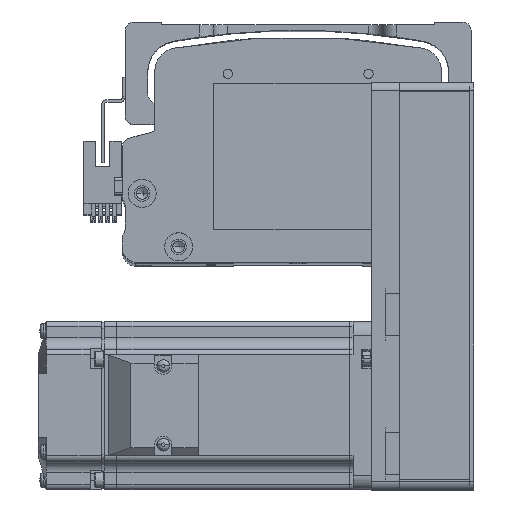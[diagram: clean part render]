
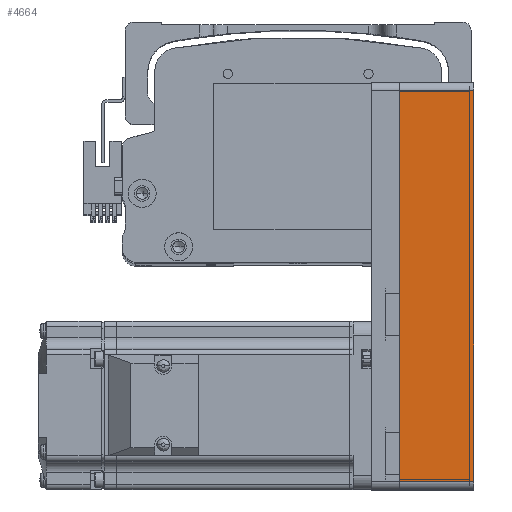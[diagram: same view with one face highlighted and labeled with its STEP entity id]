
A CAD part, top view. The second image highlights one B-rep face of the part: STEP entity #4664.
In plain terms, the highlighted planar face has unit normal (0, 0, 1) as drawn and (0, -1, 0) by its records, which use the part's own axes.
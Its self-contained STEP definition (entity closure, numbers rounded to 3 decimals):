
#3552 = DIRECTION ( 'NONE',  ( 1., 0., 0. ) ) ;
#4664 = ADVANCED_FACE ( 'NONE', ( #23637 ), #55620, .F. ) ;
#5058 = DIRECTION ( 'NONE',  ( 1., 0., 0. ) ) ;
#5772 = CARTESIAN_POINT ( 'NONE',  ( -69.5, -30., 26.5 ) ) ;
#5977 = EDGE_CURVE ( 'NONE', #57113, #63833, #38605, .T. ) ;
#8179 = CARTESIAN_POINT ( 'NONE',  ( -69.5, -30., 0. ) ) ;
#11047 = VECTOR ( 'NONE', #32174, 1000. ) ;
#12420 = CARTESIAN_POINT ( 'NONE',  ( 72.5, -30., 26.5 ) ) ;
#15045 = VERTEX_POINT ( 'NONE', #31945 ) ;
#18705 = DIRECTION ( 'NONE',  ( -1., 0., 0. ) ) ;
#18985 = AXIS2_PLACEMENT_3D ( 'NONE', #12420, #56154, #18705 ) ;
#19836 = VERTEX_POINT ( 'NONE', #33769 ) ;
#19987 = VECTOR ( 'NONE', #70031, 1000. ) ;
#22617 = ORIENTED_EDGE ( 'NONE', *, *, #5977, .T. ) ;
#23637 = FACE_OUTER_BOUND ( 'NONE', #46114, .T. ) ;
#24029 = VECTOR ( 'NONE', #3552, 1000. ) ;
#25950 = LINE ( 'NONE', #78461, #24029 ) ;
#27121 = ORIENTED_EDGE ( 'NONE', *, *, #64565, .T. ) ;
#31945 = CARTESIAN_POINT ( 'NONE',  ( 69.5, -30., 26.5 ) ) ;
#32174 = DIRECTION ( 'NONE',  ( 0., 0., 1. ) ) ;
#33769 = CARTESIAN_POINT ( 'NONE',  ( 69.5, -30., 0. ) ) ;
#35102 = EDGE_CURVE ( 'NONE', #57113, #15045, #25950, .T. ) ;
#38605 = LINE ( 'NONE', #76310, #19987 ) ;
#41403 = VECTOR ( 'NONE', #5058, 1000. ) ;
#41858 = ORIENTED_EDGE ( 'NONE', *, *, #71457, .T. ) ;
#43367 = LINE ( 'NONE', #55091, #41403 ) ;
#44299 = LINE ( 'NONE', #57314, #11047 ) ;
#46114 = EDGE_LOOP ( 'NONE', ( #27121, #41858, #49126, #22617 ) ) ;
#49126 = ORIENTED_EDGE ( 'NONE', *, *, #35102, .F. ) ;
#55091 = CARTESIAN_POINT ( 'NONE',  ( 72.5, -30., 0. ) ) ;
#55620 = PLANE ( 'NONE',  #18985 ) ;
#56154 = DIRECTION ( 'NONE',  ( 0., 1., 0. ) ) ;
#57113 = VERTEX_POINT ( 'NONE', #5772 ) ;
#57314 = CARTESIAN_POINT ( 'NONE',  ( 69.5, -30., 26.5 ) ) ;
#63833 = VERTEX_POINT ( 'NONE', #8179 ) ;
#64565 = EDGE_CURVE ( 'NONE', #63833, #19836, #43367, .T. ) ;
#70031 = DIRECTION ( 'NONE',  ( 0., 0., -1. ) ) ;
#71457 = EDGE_CURVE ( 'NONE', #19836, #15045, #44299, .T. ) ;
#76310 = CARTESIAN_POINT ( 'NONE',  ( -69.5, -30., 26.5 ) ) ;
#78461 = CARTESIAN_POINT ( 'NONE',  ( 72.5, -30., 26.5 ) ) ;
